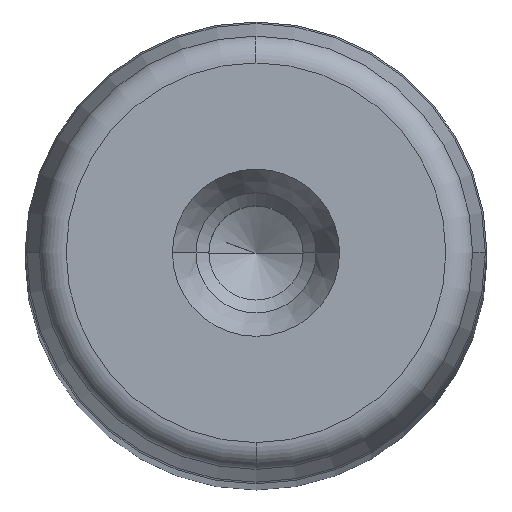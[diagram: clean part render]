
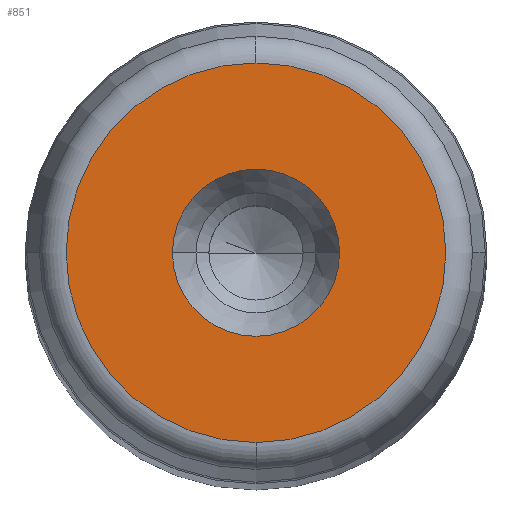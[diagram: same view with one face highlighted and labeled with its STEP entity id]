
A CAD part, top view. The second image highlights one B-rep face of the part: STEP entity #851.
In plain terms, the highlighted planar face has unit normal (0, 0, 1) as drawn and (0, 1, 0) by its records, which use the part's own axes.
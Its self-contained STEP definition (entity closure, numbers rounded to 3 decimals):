
#281=CARTESIAN_POINT('',(9.05,400.0,0.0));
#282=VERTEX_POINT('',#281);
#289=CARTESIAN_POINT('',(-9.05,400.0,0.));
#290=VERTEX_POINT('',#289);
#291=CARTESIAN_POINT('',(0.0,400.0,0.0));
#292=DIRECTION('',(0.0,1.0,0.0));
#293=DIRECTION('',(1.0,0.0,0.0));
#294=AXIS2_PLACEMENT_3D('',#291,#292,#293);
#295=CIRCLE('',#294,9.05);
#296=EDGE_CURVE('',#282,#290,#295,.T.);
#313=CARTESIAN_POINT('',(0.0,400.0,20.554));
#314=VERTEX_POINT('',#313);
#324=CARTESIAN_POINT('',(0.,400.0,-20.554));
#325=VERTEX_POINT('',#324);
#326=CARTESIAN_POINT('',(0.0,400.0,0.0));
#327=DIRECTION('',(0.0,1.0,0.0));
#328=DIRECTION('',(1.0,0.0,0.0));
#329=AXIS2_PLACEMENT_3D('',#326,#327,#328);
#330=CIRCLE('',#329,20.554);
#331=EDGE_CURVE('',#325,#314,#330,.T.);
#812=CARTESIAN_POINT('',(20.554,400.0,0.0));
#813=VERTEX_POINT('',#812);
#814=CARTESIAN_POINT('',(0.0,400.0,0.0));
#815=DIRECTION('',(0.0,1.0,0.0));
#816=DIRECTION('',(1.0,0.0,0.0));
#817=AXIS2_PLACEMENT_3D('',#814,#815,#816);
#818=CIRCLE('',#817,20.554);
#819=EDGE_CURVE('',#813,#325,#818,.T.);
#821=CARTESIAN_POINT('',(0.0,400.0,0.0));
#822=DIRECTION('',(0.0,1.0,0.0));
#823=DIRECTION('',(1.0,0.0,0.0));
#824=AXIS2_PLACEMENT_3D('',#821,#822,#823);
#825=CIRCLE('',#824,20.554);
#826=EDGE_CURVE('',#314,#813,#825,.T.);
#831=CARTESIAN_POINT('',(-22.61,400.0,-22.61));
#832=DIRECTION('',(0.0,1.0,0.0));
#833=DIRECTION('',(0.0,0.0,1.0));
#834=AXIS2_PLACEMENT_3D('',#831,#832,#833);
#835=PLANE('',#834);
#836=ORIENTED_EDGE('',*,*,#819,.T.);
#837=ORIENTED_EDGE('',*,*,#331,.T.);
#838=ORIENTED_EDGE('',*,*,#826,.T.);
#839=EDGE_LOOP('',(#836,#837,#838));
#840=FACE_OUTER_BOUND('',#839,.T.);
#841=ORIENTED_EDGE('',*,*,#296,.F.);
#842=CARTESIAN_POINT('',(0.0,400.0,0.0));
#843=DIRECTION('',(0.0,1.0,0.0));
#844=DIRECTION('',(1.0,0.0,0.0));
#845=AXIS2_PLACEMENT_3D('',#842,#843,#844);
#846=CIRCLE('',#845,9.05);
#847=EDGE_CURVE('',#290,#282,#846,.T.);
#848=ORIENTED_EDGE('',*,*,#847,.F.);
#849=EDGE_LOOP('',(#841,#848));
#850=FACE_BOUND('',#849,.T.);
#851=ADVANCED_FACE('',(#840,#850),#835,.T.);
